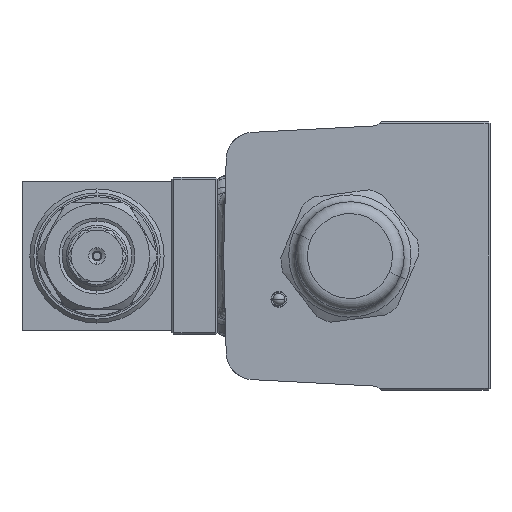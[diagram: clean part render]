
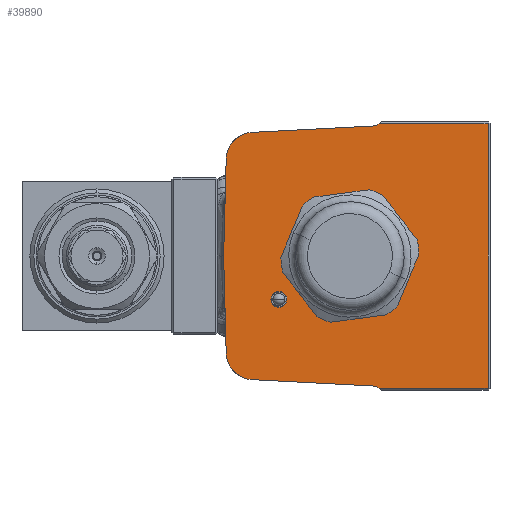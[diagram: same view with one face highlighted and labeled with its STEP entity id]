
A CAD part, left-side view. The second image highlights one B-rep face of the part: STEP entity #39890.
In plain terms, the highlighted planar face has unit normal (-1, 0, 0).
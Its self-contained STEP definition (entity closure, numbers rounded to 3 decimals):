
#472 = EDGE_LOOP ( 'NONE', ( #58214, #32553 ) ) ;
#569 = CARTESIAN_POINT ( 'NONE',  ( -46.6, 31.978, -0.837 ) ) ;
#970 = EDGE_CURVE ( 'NONE', #14756, #45284, #44122, .T. ) ;
#1397 = EDGE_CURVE ( 'NONE', #21109, #24276, #44847, .T. ) ;
#1425 = VECTOR ( 'NONE', #13459, 1000. ) ;
#1473 = ORIENTED_EDGE ( 'NONE', *, *, #62791, .T. ) ;
#3391 = VERTEX_POINT ( 'NONE', #19033 ) ;
#4149 = CIRCLE ( 'NONE', #58941, 16. ) ;
#4257 = EDGE_CURVE ( 'NONE', #36843, #14756, #13919, .T. ) ;
#4517 = DIRECTION ( 'NONE',  ( 0., 0., 1. ) ) ;
#4631 = CIRCLE ( 'NONE', #59230, 7. ) ;
#4682 = CARTESIAN_POINT ( 'NONE',  ( -46.6, 31.358, -24.53 ) ) ;
#5015 = DIRECTION ( 'NONE',  ( 0., 0., 1. ) ) ;
#5236 = ORIENTED_EDGE ( 'NONE', *, *, #48409, .F. ) ;
#5348 = CARTESIAN_POINT ( 'NONE',  ( -46.6, 0., 0. ) ) ;
#5432 = EDGE_LOOP ( 'NONE', ( #32566, #55903, #7104, #53202, #25889, #42629, #32056, #50850, #60955, #51253, #1473 ) ) ;
#5774 = EDGE_CURVE ( 'NONE', #14574, #18355, #4149, .T. ) ;
#6707 = EDGE_CURVE ( 'NONE', #45284, #64317, #7913, .T. ) ;
#6880 = CARTESIAN_POINT ( 'NONE',  ( -46.6, -7.444, 33.5 ) ) ;
#7056 = CARTESIAN_POINT ( 'NONE',  ( -46.6, 1.706, 32.544 ) ) ;
#7104 = ORIENTED_EDGE ( 'NONE', *, *, #6707, .T. ) ;
#7134 = CARTESIAN_POINT ( 'NONE',  ( -46.6, -7.444, -33.5 ) ) ;
#7289 = EDGE_CURVE ( 'NONE', #15408, #3391, #28038, .T. ) ;
#7913 = LINE ( 'NONE', #63652, #34435 ) ;
#9684 = EDGE_CURVE ( 'NONE', #61835, #3391, #4631, .T. ) ;
#10059 = CARTESIAN_POINT ( 'NONE',  ( -46.6, 18., -11. ) ) ;
#10160 = EDGE_CURVE ( 'NONE', #64317, #54409, #56771, .T. ) ;
#10391 = DIRECTION ( 'NONE',  ( 0., -1., 0. ) ) ;
#10578 = CARTESIAN_POINT ( 'NONE',  ( -46.6, 18., -9. ) ) ;
#10734 = EDGE_CURVE ( 'NONE', #60440, #26774, #44171, .T. ) ;
#11693 = CARTESIAN_POINT ( 'NONE',  ( -46.6, -5.85, 32.94 ) ) ;
#12058 = DIRECTION ( 'NONE',  ( 0., -0.999, 0.052 ) ) ;
#13459 = DIRECTION ( 'NONE',  ( 0., -0.026, 1. ) ) ;
#13919 = CIRCLE ( 'NONE', #58316, 3. ) ;
#14574 = VERTEX_POINT ( 'NONE', #49904 ) ;
#14729 = FACE_OUTER_BOUND ( 'NONE', #5432, .T. ) ;
#14756 = VERTEX_POINT ( 'NONE', #7134 ) ;
#14757 = CARTESIAN_POINT ( 'NONE',  ( -46.6, 24.726, -31.337 ) ) ;
#15069 = DIRECTION ( 'NONE',  ( 0., 0., 1. ) ) ;
#15408 = VERTEX_POINT ( 'NONE', #20543 ) ;
#15538 = CARTESIAN_POINT ( 'NONE',  ( -46.6, -35.5, -34. ) ) ;
#16985 = VECTOR ( 'NONE', #29525, 1000. ) ;
#17628 = DIRECTION ( 'NONE',  ( 1., 0., 0. ) ) ;
#18034 = CARTESIAN_POINT ( 'NONE',  ( -46.6, 24.726, 31.337 ) ) ;
#18044 = DIRECTION ( 'NONE',  ( 1., 0., 0. ) ) ;
#18355 = VERTEX_POINT ( 'NONE', #51673 ) ;
#19033 = CARTESIAN_POINT ( 'NONE',  ( -46.6, 31.358, 24.53 ) ) ;
#20543 = CARTESIAN_POINT ( 'NONE',  ( -46.6, 32., 0. ) ) ;
#20559 = DIRECTION ( 'NONE',  ( 0., 0., 1. ) ) ;
#21109 = VERTEX_POINT ( 'NONE', #10578 ) ;
#21846 = VECTOR ( 'NONE', #12058, 1000. ) ;
#22202 = CIRCLE ( 'NONE', #43561, 16. ) ;
#24207 = LINE ( 'NONE', #49877, #50702 ) ;
#24276 = VERTEX_POINT ( 'NONE', #41197 ) ;
#25889 = ORIENTED_EDGE ( 'NONE', *, *, #59173, .T. ) ;
#26039 = CARTESIAN_POINT ( 'NONE',  ( -46.6, -35.5, -33.5 ) ) ;
#26373 = CARTESIAN_POINT ( 'NONE',  ( -46.6, -35., -33.5 ) ) ;
#26774 = VERTEX_POINT ( 'NONE', #4682 ) ;
#26849 = EDGE_CURVE ( 'NONE', #18355, #14574, #22202, .T. ) ;
#28038 = LINE ( 'NONE', #28284, #1425 ) ;
#28088 = CARTESIAN_POINT ( 'NONE',  ( -46.6, 24.36, 24.347 ) ) ;
#28284 = CARTESIAN_POINT ( 'NONE',  ( -46.6, 31.978, 0.837 ) ) ;
#28292 = EDGE_CURVE ( 'NONE', #15408, #26774, #41301, .T. ) ;
#28502 = DIRECTION ( 'NONE',  ( -1., 0., 0. ) ) ;
#28800 = DIRECTION ( 'NONE',  ( 0., 0., 1. ) ) ;
#29525 = DIRECTION ( 'NONE',  ( 0., 1., 0. ) ) ;
#29877 = EDGE_LOOP ( 'NONE', ( #46927, #5236 ) ) ;
#30236 = VERTEX_POINT ( 'NONE', #11693 ) ;
#32056 = ORIENTED_EDGE ( 'NONE', *, *, #9684, .T. ) ;
#32553 = ORIENTED_EDGE ( 'NONE', *, *, #26849, .F. ) ;
#32566 = ORIENTED_EDGE ( 'NONE', *, *, #4257, .T. ) ;
#33134 = DIRECTION ( 'NONE',  ( 0., 0., 1. ) ) ;
#34435 = VECTOR ( 'NONE', #28800, 1000. ) ;
#34448 = DIRECTION ( 'NONE',  ( -1., 0., 0. ) ) ;
#34916 = DIRECTION ( 'NONE',  ( 1., 0., 0. ) ) ;
#35121 = LINE ( 'NONE', #7056, #21846 ) ;
#36843 = VERTEX_POINT ( 'NONE', #41504 ) ;
#39713 = FACE_BOUND ( 'NONE', #472, .T. ) ;
#39890 = ADVANCED_FACE ( 'NONE', ( #14729, #52931, #39713 ), #50224, .T. ) ;
#40268 = DIRECTION ( 'NONE',  ( -1., 0., 0. ) ) ;
#40573 = DIRECTION ( 'NONE',  ( 0., -0.026, -1. ) ) ;
#41197 = CARTESIAN_POINT ( 'NONE',  ( -46.6, 18., -13. ) ) ;
#41301 = LINE ( 'NONE', #569, #52961 ) ;
#41504 = CARTESIAN_POINT ( 'NONE',  ( -46.6, -5.85, -32.94 ) ) ;
#42629 = ORIENTED_EDGE ( 'NONE', *, *, #49240, .F. ) ;
#43561 = AXIS2_PLACEMENT_3D ( 'NONE', #5348, #40268, #10391 ) ;
#44122 = LINE ( 'NONE', #26039, #57351 ) ;
#44171 = CIRCLE ( 'NONE', #63885, 7. ) ;
#44354 = AXIS2_PLACEMENT_3D ( 'NONE', #47512, #17628, #52503 ) ;
#44847 = CIRCLE ( 'NONE', #56508, 2. ) ;
#44963 = DIRECTION ( 'NONE',  ( -1., 0., 0. ) ) ;
#45284 = VERTEX_POINT ( 'NONE', #26373 ) ;
#46129 = AXIS2_PLACEMENT_3D ( 'NONE', #15538, #50440, #20559 ) ;
#46927 = ORIENTED_EDGE ( 'NONE', *, *, #1397, .F. ) ;
#47272 = CIRCLE ( 'NONE', #44354, 3. ) ;
#47512 = CARTESIAN_POINT ( 'NONE',  ( -46.6, -5.693, 35.936 ) ) ;
#47931 = CARTESIAN_POINT ( 'NONE',  ( -46.6, -5.693, -35.936 ) ) ;
#48409 = EDGE_CURVE ( 'NONE', #24276, #21109, #50060, .T. ) ;
#49240 = EDGE_CURVE ( 'NONE', #61835, #30236, #35121, .T. ) ;
#49877 = CARTESIAN_POINT ( 'NONE',  ( -46.6, 1.706, -32.544 ) ) ;
#49904 = CARTESIAN_POINT ( 'NONE',  ( -46.6, -16., 0. ) ) ;
#50060 = CIRCLE ( 'NONE', #60576, 2. ) ;
#50224 = PLANE ( 'NONE',  #46129 ) ;
#50440 = DIRECTION ( 'NONE',  ( -1., 0., 0. ) ) ;
#50702 = VECTOR ( 'NONE', #54659, 1000. ) ;
#50850 = ORIENTED_EDGE ( 'NONE', *, *, #7289, .F. ) ;
#51253 = ORIENTED_EDGE ( 'NONE', *, *, #10734, .F. ) ;
#51673 = CARTESIAN_POINT ( 'NONE',  ( -46.6, 16., 0. ) ) ;
#52503 = DIRECTION ( 'NONE',  ( 0., 0., 1. ) ) ;
#52900 = DIRECTION ( 'NONE',  ( 0., 0., 1. ) ) ;
#52931 = FACE_BOUND ( 'NONE', #29877, .T. ) ;
#52961 = VECTOR ( 'NONE', #40573, 1000. ) ;
#53202 = ORIENTED_EDGE ( 'NONE', *, *, #10160, .T. ) ;
#54409 = VERTEX_POINT ( 'NONE', #6880 ) ;
#54659 = DIRECTION ( 'NONE',  ( 0., -0.999, -0.052 ) ) ;
#55879 = DIRECTION ( 'NONE',  ( 0., -1., 0. ) ) ;
#55903 = ORIENTED_EDGE ( 'NONE', *, *, #970, .T. ) ;
#56508 = AXIS2_PLACEMENT_3D ( 'NONE', #10059, #44963, #15069 ) ;
#56771 = LINE ( 'NONE', #59178, #16985 ) ;
#57351 = VECTOR ( 'NONE', #55879, 1000. ) ;
#57893 = CARTESIAN_POINT ( 'NONE',  ( -46.6, -35., 33.5 ) ) ;
#58214 = ORIENTED_EDGE ( 'NONE', *, *, #5774, .F. ) ;
#58316 = AXIS2_PLACEMENT_3D ( 'NONE', #47931, #18044, #52900 ) ;
#58324 = CARTESIAN_POINT ( 'NONE',  ( -46.6, 0., 0. ) ) ;
#58941 = AXIS2_PLACEMENT_3D ( 'NONE', #58324, #28502, #63368 ) ;
#59173 = EDGE_CURVE ( 'NONE', #54409, #30236, #47272, .T. ) ;
#59178 = CARTESIAN_POINT ( 'NONE',  ( -46.6, -35.5, 33.5 ) ) ;
#59230 = AXIS2_PLACEMENT_3D ( 'NONE', #28088, #62949, #33134 ) ;
#60440 = VERTEX_POINT ( 'NONE', #14757 ) ;
#60576 = AXIS2_PLACEMENT_3D ( 'NONE', #64292, #34448, #4517 ) ;
#60955 = ORIENTED_EDGE ( 'NONE', *, *, #28292, .T. ) ;
#61835 = VERTEX_POINT ( 'NONE', #18034 ) ;
#62791 = EDGE_CURVE ( 'NONE', #60440, #36843, #24207, .T. ) ;
#62949 = DIRECTION ( 'NONE',  ( -1., 0., 0. ) ) ;
#63368 = DIRECTION ( 'NONE',  ( 0., -1., 0. ) ) ;
#63652 = CARTESIAN_POINT ( 'NONE',  ( -46.6, -35., -34. ) ) ;
#63885 = AXIS2_PLACEMENT_3D ( 'NONE', #64772, #34916, #5015 ) ;
#64292 = CARTESIAN_POINT ( 'NONE',  ( -46.6, 18., -11. ) ) ;
#64317 = VERTEX_POINT ( 'NONE', #57893 ) ;
#64772 = CARTESIAN_POINT ( 'NONE',  ( -46.6, 24.36, -24.347 ) ) ;
